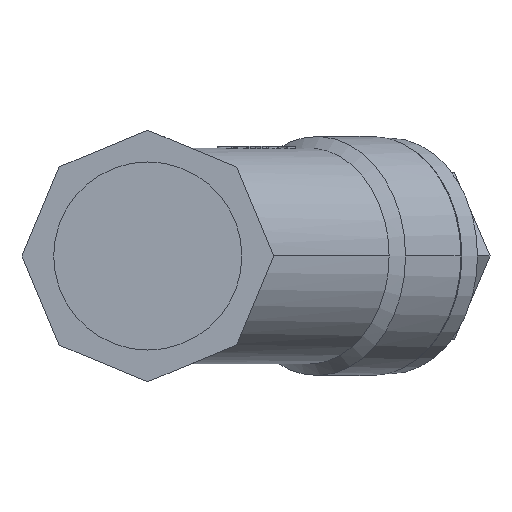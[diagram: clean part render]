
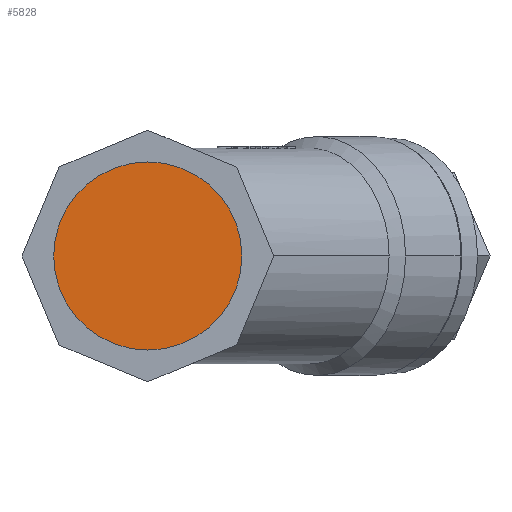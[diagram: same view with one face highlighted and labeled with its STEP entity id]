
A CAD part, left-side view. The second image highlights one B-rep face of the part: STEP entity #5828.
In plain terms, the highlighted planar face has unit normal (-1, 0, 0).
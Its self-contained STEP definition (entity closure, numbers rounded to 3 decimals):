
#774 = CARTESIAN_POINT ( 'NONE',  ( -41., 0., 28.33 ) ) ;
#775 = CARTESIAN_POINT ( 'NONE',  ( -41., 0., -28.33 ) ) ;
#776 = DIRECTION ( 'NONE',  ( 0., 0., 1. ) ) ;
#777 = DIRECTION ( 'NONE',  ( -1., 0., 0. ) ) ;
#778 = CARTESIAN_POINT ( 'NONE',  ( -41., 0., 0. ) ) ;
#779 = AXIS2_PLACEMENT_3D ( 'NONE', #778, #777, #776 ) ;
#784 = CIRCLE ( 'NONE', #779, 28.33 ) ;
#1719 = DIRECTION ( 'NONE',  ( 0., 0., 1. ) ) ;
#1720 = DIRECTION ( 'NONE',  ( -1., 0., 0. ) ) ;
#1721 = CARTESIAN_POINT ( 'NONE',  ( -41., 0., 0. ) ) ;
#1722 = AXIS2_PLACEMENT_3D ( 'NONE', #1721, #1720, #1719 ) ;
#1723 = PLANE ( 'NONE',  #1722 ) ;
#1724 = FACE_OUTER_BOUND ( 'NONE', #5829, .T. ) ;
#1725 = DIRECTION ( 'NONE',  ( 0., 0., 1. ) ) ;
#1726 = DIRECTION ( 'NONE',  ( -1., 0., 0. ) ) ;
#1727 = AXIS2_PLACEMENT_3D ( 'NONE', #1732, #1726, #1725 ) ;
#1728 = CIRCLE ( 'NONE', #1727, 28.33 ) ;
#1732 = CARTESIAN_POINT ( 'NONE',  ( -41., 0., 0. ) ) ;
#5352 = EDGE_CURVE ( 'NONE', #5353, #5354, #784, .T. ) ;
#5353 = VERTEX_POINT ( 'NONE', #775 ) ;
#5354 = VERTEX_POINT ( 'NONE', #774 ) ;
#5825 = EDGE_CURVE ( 'NONE', #5354, #5353, #1728, .T. ) ;
#5828 = ADVANCED_FACE ( 'NONE', ( #1724 ), #1723, .T. ) ;
#5829 = EDGE_LOOP ( 'NONE', ( #5830, #5831 ) ) ;
#5830 = ORIENTED_EDGE ( 'NONE', *, *, #5825, .T. ) ;
#5831 = ORIENTED_EDGE ( 'NONE', *, *, #5352, .T. ) ;
